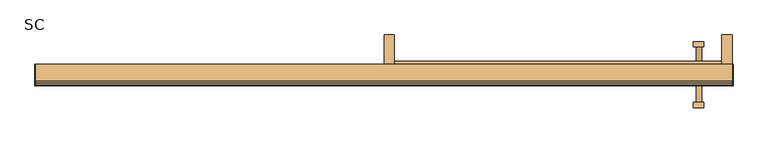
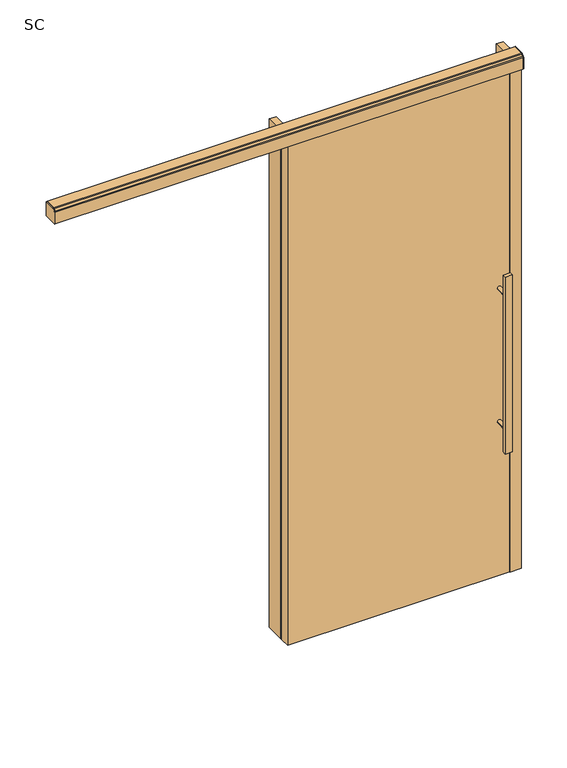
"""IFC4 building model written with IfcOpenShell, lengths in millimetres: door geometry, Mobiliário_Mobiliário de Escritório_Porta Simples de Correr - SC_Marelli : SC."""

import ifcopenshell
import ifcopenshell.guid

model = None  # the IFC model being written
_history = None  # IfcOwnerHistory: only IFC2X3 demands one
_inside = {}  # id of a spatial element -> (the spatial element, [elements in it])
_under = {}  # id of a project, library or spatial element -> (it, [spatial elements below it])
_declared = {}  # id of a project -> (the project, [libraries it declares])
_typed = {}  # id of a type object -> (the type object, [elements of that type])
_made_of = {}  # id of a material, layer set ... -> (it, [elements and type objects made of it])


def new_model(schema):
    """Start an empty IFC model of exactly this schema.

    Asked for "IFC4X3", IfcOpenShell would pick the latest addendum, in which some entities
    have other attributes; the version numbers below select the first issue.
    IFC2X3 requires an IfcOwnerHistory on every rooted entity: one is made here for all.
    """
    global model, _history
    if schema == "IFC4X3":
        model = ifcopenshell.file(schema_version=(4, 3, 0, 0))
    else:
        model = ifcopenshell.file(schema=schema)
    _inside.clear()
    _under.clear()
    _declared.clear()
    _typed.clear()
    _made_of.clear()
    _history = None
    if model.schema == "IFC2X3":
        org = make("IfcOrganization", Name="unknown")
        user = make(
            "IfcPersonAndOrganization",
            ThePerson=make("IfcPerson", FamilyName="unknown"),
            TheOrganization=org,
        )
        app = make(
            "IfcApplication",
            ApplicationDeveloper=org,
            Version="unknown",
            ApplicationFullName="unknown",
            ApplicationIdentifier="unknown",
        )
        _history = make(
            "IfcOwnerHistory",
            OwningUser=user,
            OwningApplication=app,
            ChangeAction="ADDED",
            CreationDate=0,
        )
    return model


def make(cls, **values):
    """One entity of the class cls with the attributes given. An attribute that is None is left unset."""
    return model.create_entity(
        cls, **{name: value for name, value in values.items() if value is not None}
    )


def rooted(cls, **values):
    """An entity with a GlobalId (a new one), such as an element, a storey or a relation."""
    return make(cls, GlobalId=ifcopenshell.guid.new(), OwnerHistory=_history, **values)


def si_unit(unit_type, name, prefix=None):
    """IfcSIUnit, for example si_unit("LENGTHUNIT", "METRE", prefix="MILLI")."""
    return make("IfcSIUnit", UnitType=unit_type, Prefix=prefix, Name=name)


def assignment(units):
    """IfcUnitAssignment: the units of a project."""
    return None if units is None else make("IfcUnitAssignment", Units=units)


def point(xyz):
    """IfcCartesianPoint."""
    return None if xyz is None else make("IfcCartesianPoint", Coordinates=xyz)


def direction(xyz):
    """IfcDirection."""
    return None if xyz is None else make("IfcDirection", DirectionRatios=xyz)


def frame(location, z_axis=None, x_axis=None):
    """IfcAxis2Placement3D, a coordinate frame: its origin and axes. An axis left out is left unset."""
    return make(
        "IfcAxis2Placement3D",
        Location=point(location),
        Axis=direction(z_axis),
        RefDirection=direction(x_axis),
    )


def frame_2d(location, x_axis=None):
    """IfcAxis2Placement2D, a coordinate frame in the plane: its origin and x axis."""
    return make(
        "IfcAxis2Placement2D", Location=point(location), RefDirection=direction(x_axis)
    )


def origin():
    """The frame at (0, 0, 0) with its axes left unset."""
    return frame((0.0, 0.0, 0.0))


def origin_with_axes():
    """The frame at (0, 0, 0) with the z axis (0, 0, 1) and the x axis (1, 0, 0) written out."""
    return frame((0.0, 0.0, 0.0), z_axis=(0.0, 0.0, 1.0), x_axis=(1.0, 0.0, 0.0))


def place(relative_to, where):
    """IfcLocalPlacement: puts the frame where relative to a parent placement (None: the world)."""
    return make(
        "IfcLocalPlacement", PlacementRelTo=relative_to, RelativePlacement=where
    )


def context(
    kind, dimensions, precision=None, world=None, true_north=None, identifier=None
):
    """IfcGeometricRepresentationContext, for example the 3D "Model" context."""
    return make(
        "IfcGeometricRepresentationContext",
        ContextIdentifier=identifier,
        ContextType=kind,
        CoordinateSpaceDimension=dimensions,
        Precision=precision,
        WorldCoordinateSystem=world,
        TrueNorth=true_north,
    )


def project(units=None, contexts=None):
    """IfcProject with its units and contexts."""
    return rooted(
        "IfcProject",
        Name="project",
        RepresentationContexts=contexts,
        UnitsInContext=assignment(units),
    )


def spatial(cls, under=None, at=None, **own):
    """A site, building, storey or space (cls), placed at a placement, below another one or the project."""
    s = rooted(cls, ObjectPlacement=at, **own)
    if under is not None:
        _under.setdefault(under.id(), (under, []))[1].append(s)
    return s


def polyline(points):
    """IfcPolyline through the points."""
    return make("IfcPolyline", Points=[point(p) for p in points])


def circle_curve(where, radius):
    """IfcCircle in the frame where."""
    return make("IfcCircle", Position=where, Radius=radius)


def trimmed(basis, trim1, trim2, sense, master):
    """IfcTrimmedCurve: the piece of a basis curve between two trims."""
    return make(
        "IfcTrimmedCurve",
        BasisCurve=basis,
        Trim1=trim1,
        Trim2=trim2,
        SenseAgreement=sense,
        MasterRepresentation=master,
    )


def segment(curve, same_sense, transition):
    """IfcCompositeCurveSegment."""
    return make(
        "IfcCompositeCurveSegment",
        Transition=transition,
        SameSense=same_sense,
        ParentCurve=curve,
    )


def composite_curve(segments, self_intersect=None):
    """IfcCompositeCurve: segments joined end to end."""
    return make("IfcCompositeCurve", Segments=segments, SelfIntersect=self_intersect)


def outline(outer, holes=None, kind="AREA"):
    """IfcArbitraryClosedProfileDef: a profile drawn as a closed curve; with holes, ...WithVoids."""
    if holes is None:
        return make("IfcArbitraryClosedProfileDef", ProfileType=kind, OuterCurve=outer)
    return make(
        "IfcArbitraryProfileDefWithVoids",
        ProfileType=kind,
        OuterCurve=outer,
        InnerCurves=holes,
    )


def extrude(swept, where, along, depth):
    """IfcExtrudedAreaSolid: the profile swept, set in the frame where, extruded along a direction by depth."""
    return make(
        "IfcExtrudedAreaSolid",
        SweptArea=swept,
        Position=where,
        ExtrudedDirection=direction(along),
        Depth=depth,
    )


def shape(context_of_items, identifier, shape_type, items):
    """IfcShapeRepresentation: the items that make up one representation, for example the "Body"."""
    return make(
        "IfcShapeRepresentation",
        ContextOfItems=context_of_items,
        RepresentationIdentifier=identifier,
        RepresentationType=shape_type,
        Items=items,
    )


def source(mapping_origin, context_of_items, identifier, shape_type, items):
    """IfcRepresentationMap: a shape defined once, which mapped items show again and again."""
    return make(
        "IfcRepresentationMap",
        MappingOrigin=mapping_origin,
        MappedRepresentation=shape(context_of_items, identifier, shape_type, items),
    )


def transform(
    local_origin,
    x_axis=None,
    y_axis=None,
    z_axis=None,
    scale=None,
    scale2=None,
    scale3=None,
    uniform=True,
):
    """IfcCartesianTransformationOperator3D, or its non-uniform kind. x_axis, y_axis, z_axis: its Axis1, 2, 3."""
    if uniform:
        return make(
            "IfcCartesianTransformationOperator3D",
            Axis1=direction(x_axis),
            Axis2=direction(y_axis),
            LocalOrigin=point(local_origin),
            Scale=scale,
            Axis3=direction(z_axis),
        )
    return make(
        "IfcCartesianTransformationOperator3DnonUniform",
        Axis1=direction(x_axis),
        Axis2=direction(y_axis),
        LocalOrigin=point(local_origin),
        Scale=scale,
        Axis3=direction(z_axis),
        Scale2=scale2,
        Scale3=scale3,
    )


def mapped(mapping_source, mapping_target):
    """IfcMappedItem: shows the shape of a source again, moved by a transform."""
    return make(
        "IfcMappedItem", MappingSource=mapping_source, MappingTarget=mapping_target
    )


def made_of(thing, what):
    """Note that an element or type object is made of a material, layer set ...; save() writes the relation."""
    if what is not None:
        _made_of.setdefault(what.id(), (what, []))[1].append(thing)
    return thing


def element(
    cls,
    number,
    at=None,
    inside=None,
    cuts=None,
    type_object=None,
    material=None,
    context=None,
    identifier="Body",
    shape_type=None,
    held_by="IfcProductDefinitionShape",
    body=None,
    shapes=None,
    **own,
):
    """One element of the class cls, such as IfcWall. Its Tag is "e" and its number.

    at: its placement. inside: the storey or other place that contains it. cuts: it is an
    opening in that element (IfcRelVoidsElement). A single representation is given by context,
    identifier, shape_type and body (its items); several are given by shapes. held_by: the class
    of the entity that holds the representations. save() writes the other relations.
    """
    e = rooted(cls, Tag="e%d" % number, ObjectPlacement=at, **own)
    if body is not None:
        shapes = [shape(context, identifier, shape_type, body)]
    if shapes is not None:
        e.Representation = make(held_by, Representations=shapes)
    if inside is not None:
        _inside.setdefault(inside.id(), (inside, []))[1].append(e)
    if cuts is not None:
        rooted(
            "IfcRelVoidsElement", RelatingBuildingElement=cuts, RelatedOpeningElement=e
        )
    if type_object is not None:
        _typed.setdefault(type_object.id(), (type_object, []))[1].append(e)
    return made_of(e, material)


def aggregate(whole, parts):
    """IfcRelAggregates: a whole, such as a stair, and the parts it consists of."""
    return rooted("IfcRelAggregates", RelatingObject=whole, RelatedObjects=parts)


def save(model, path):
    """Write the relations noted so far, then the file.

    IfcRelAggregates (storeys below a building ...), IfcRelContainedInSpatialStructure (elements
    in a storey), IfcRelDefinesByType, IfcRelAssociatesMaterial and IfcRelDeclares: one each for
    every whole, place, type object, material and project.
    """
    for whole, parts in _under.values():
        aggregate(whole, parts)
    for where, things in _inside.values():
        rooted(
            "IfcRelContainedInSpatialStructure",
            RelatedElements=things,
            RelatingStructure=where,
        )
    for kind, things in _typed.values():
        rooted("IfcRelDefinesByType", RelatedObjects=things, RelatingType=kind)
    for what, things in _made_of.values():
        rooted("IfcRelAssociatesMaterial", RelatedObjects=things, RelatingMaterial=what)
    for by, libraries in _declared.values():
        rooted("IfcRelDeclares", RelatingContext=by, RelatedDefinitions=libraries)
    model.write(path)


def sc_cab2c7cc(model_context):
    return source(origin(), model_context, "Body", "SweptSolid", [
        extrude(outline(polyline([(450.0, -108.0), (450.0, -150.0), (-500.0, -150.0), (-500.0, -108.0), (450.0, -108.0)])), frame((0.0, 0.0, 2.0), z_axis=(0.0, 0.0, 1.0), x_axis=(1.0, 0.0, 0.0)), (0.0, 0.0, 1.0), 2278.0),
        extrude(outline(polyline([(-500.0, -15.0), (-470.0, -15.0), (-470.0, -100.0), (-500.0, -100.0), (-500.0, -15.0)])), origin_with_axes(), (0.0, 0.0, 1.0), 2300.0),
        extrude(outline(polyline([(500.0, -15.0), (500.0, -100.0), (470.0, -100.0), (470.0, -15.0), (500.0, -15.0)])), origin_with_axes(), (0.0, 0.0, 1.0), 2300.0),
        extrude(outline(polyline([(500.0, -100.0), (500.0, -150.0), (450.0, -150.0), (450.0, -100.0), (500.0, -100.0)])), origin_with_axes(), (0.0, 0.0, 1.0), 2280.0),
        extrude(outline(polyline([(388.9, -223.7), (388.9, -208.7), (418.9, -208.7), (418.9, -223.7), (388.9, -223.7)])), frame((0.0, 0.0, 600.0), z_axis=(0.0, 0.0, 1.0), x_axis=(1.0, 0.0, 0.0)), (0.0, 0.0, 1.0), 800.0),
        extrude(outline(composite_curve([segment(trimmed(circle_curve(frame_2d((698.0, 405.0278633)), 8.0), [point((698.0, 397.0278633))], [point((698.0, 413.0278633))], False, "CARTESIAN"), True, "CONTINUOUS"), segment(trimmed(circle_curve(frame_2d((698.0, 405.0278633)), 8.0), [point((698.0, 413.0278633))], [point((698.0, 397.0278633))], False, "CARTESIAN"), True, "CONTINUOUS")], self_intersect=False)), frame((0.0, -208.7, 0.0), z_axis=(0.0, 1.0, 0.0), x_axis=(0.0, 0.0, 1.0)), (0.0, 0.0, 1.0), 58.7),
        extrude(outline(composite_curve([segment(trimmed(circle_curve(frame_2d((1302.0, 405.0278633)), 8.0), [point((1302.0, 397.0278633))], [point((1302.0, 413.0278633))], False, "CARTESIAN"), True, "CONTINUOUS"), segment(trimmed(circle_curve(frame_2d((1302.0, 405.0278633)), 8.0), [point((1302.0, 413.0278633))], [point((1302.0, 397.0278633))], False, "CARTESIAN"), True, "CONTINUOUS")], self_intersect=False)), frame((0.0, -208.7, 0.0), z_axis=(0.0, 1.0, 0.0), x_axis=(0.0, 0.0, 1.0)), (0.0, 0.0, 1.0), 58.7),
        extrude(outline(polyline([(388.9, -34.3), (418.9, -34.3), (418.9, -49.3), (388.9, -49.3), (388.9, -34.3)])), frame((0.0, 0.0, 600.0), z_axis=(0.0, 0.0, 1.0), x_axis=(1.0, 0.0, 0.0)), (0.0, 0.0, 1.0), 800.0),
        extrude(outline(composite_curve([segment(trimmed(circle_curve(frame_2d((698.0, 405.0278633)), 8.0), [point((698.0, 397.0278633))], [point((698.0, 413.0278633))], False, "CARTESIAN"), True, "CONTINUOUS"), segment(trimmed(circle_curve(frame_2d((698.0, 405.0278633)), 8.0), [point((698.0, 413.0278633))], [point((698.0, 397.0278633))], False, "CARTESIAN"), True, "CONTINUOUS")], self_intersect=False)), frame((0.0, -108.0, 0.0), z_axis=(0.0, 1.0, 0.0), x_axis=(0.0, 0.0, 1.0)), (0.0, 0.0, 1.0), 58.7),
        extrude(outline(composite_curve([segment(trimmed(circle_curve(frame_2d((1302.0, 405.0278633)), 8.0), [point((1302.0, 397.0278633))], [point((1302.0, 413.0278633))], False, "CARTESIAN"), True, "CONTINUOUS"), segment(trimmed(circle_curve(frame_2d((1302.0, 405.0278633)), 8.0), [point((1302.0, 413.0278633))], [point((1302.0, 397.0278633))], False, "CARTESIAN"), True, "CONTINUOUS")], self_intersect=False)), frame((0.0, -108.0, 0.0), z_axis=(0.0, 1.0, 0.0), x_axis=(0.0, 0.0, 1.0)), (0.0, 0.0, 1.0), 58.7),
        extrude(outline(polyline([(470.0, -90.0), (470.0, -100.0), (-470.0, -100.0), (-470.0, -90.0), (470.0, -90.0)])), frame((0.0, 0.0, 2270.0), z_axis=(0.0, 0.0, 1.0), x_axis=(1.0, 0.0, 0.0)), (0.0, 0.0, 1.0), 30.0),
        extrude(outline(composite_curve([segment(polyline([(-100.0, 2280.0), (-103.7, 2280.0), (-103.7, 2288.4), (-118.3, 2288.4), (-118.3, 2316.9), (-142.2, 2316.9), (-142.2, 2288.4), (-156.1, 2288.4), (-156.1, 2264.2), (-161.3, 2264.2), (-161.3, 2316.3833057)]), True, "CONTINUOUS"), segment(trimmed(circle_curve(frame_2d((-154.7488615, 2316.4864296)), 6.5519502), [point((-161.3, 2316.3833057))], [point((-159.3082964, 2321.1917036))], False, "CARTESIAN"), True, "CONTINUOUS"), segment(polyline([(-159.3082964, 2321.1917036), (-153.2917036, 2327.2082964)]), True, "CONTINUOUS"), segment(trimmed(circle_curve(frame_2d((-148.5864296, 2322.6488615)), 6.5519502), [point((-153.2917036, 2327.2082964))], [point((-148.4833057, 2329.2))], False, "CARTESIAN"), True, "CONTINUOUS"), segment(polyline([(-148.4833057, 2329.2), (-100.0, 2329.2), (-100.0, 2280.0)]), True, "CONTINUOUS")], self_intersect=False)), frame((-1500.0, 0.0, 0.0), z_axis=(1.0, 0.0, 0.0), x_axis=(0.0, 1.0, 0.0)), (0.0, 0.0, 1.0), 2000.0),
        extrude(outline(composite_curve([segment(polyline([(-100.0, 2264.2), (-161.3, 2264.2), (-161.3, 2316.3833057)]), True, "CONTINUOUS"), segment(trimmed(circle_curve(frame_2d((-154.7488615, 2316.4864296)), 6.5519502), [point((-161.3, 2316.3833057))], [point((-159.3082964, 2321.1917036))], False, "CARTESIAN"), True, "CONTINUOUS"), segment(polyline([(-159.3082964, 2321.1917036), (-153.2917036, 2327.2082964)]), True, "CONTINUOUS"), segment(trimmed(circle_curve(frame_2d((-148.5864296, 2322.6488615)), 6.5519502), [point((-153.2917036, 2327.2082964))], [point((-148.4833057, 2329.2))], False, "CARTESIAN"), True, "CONTINUOUS"), segment(polyline([(-148.4833057, 2329.2), (-100.0, 2329.2), (-100.0, 2264.2)]), True, "CONTINUOUS")], self_intersect=False)), frame((500.0, 0.0, 0.0), z_axis=(1.0, 0.0, 0.0), x_axis=(0.0, 1.0, 0.0)), (0.0, 0.0, 1.0), 3.0),
        extrude(outline(composite_curve([segment(polyline([(-100.0, 2264.2), (-161.3, 2264.2), (-161.3, 2316.3833057)]), True, "CONTINUOUS"), segment(trimmed(circle_curve(frame_2d((-154.7488615, 2316.4864296)), 6.5519502), [point((-161.3, 2316.3833057))], [point((-159.3082964, 2321.1917036))], False, "CARTESIAN"), True, "CONTINUOUS"), segment(polyline([(-159.3082964, 2321.1917036), (-153.2917036, 2327.2082964)]), True, "CONTINUOUS"), segment(trimmed(circle_curve(frame_2d((-148.5864296, 2322.6488615)), 6.5519502), [point((-153.2917036, 2327.2082964))], [point((-148.4833057, 2329.2))], False, "CARTESIAN"), True, "CONTINUOUS"), segment(polyline([(-148.4833057, 2329.2), (-100.0, 2329.2), (-100.0, 2264.2)]), True, "CONTINUOUS")], self_intersect=False)), frame((-1503.0, 0.0, 0.0), z_axis=(1.0, 0.0, 0.0), x_axis=(0.0, 1.0, 0.0)), (0.0, 0.0, 1.0), 3.0),
    ])


if __name__ == "__main__":
    model = new_model("IFC4")
    model_context = context("Model", 3, world=origin())
    ifc_project = project(units=[si_unit("LENGTHUNIT", "METRE", prefix="MILLI")], contexts=[model_context])
    site = spatial("IfcSite", under=ifc_project)
    building = spatial("IfcBuilding", under=site)
    placement = place(None, origin())
    sc_shape = sc_cab2c7cc(model_context)
    element("IfcDoor", 1, ObjectType="Mobiliário_Mobiliário de Escritório_Porta Simples de Correr - SC_Marelli : SC", at=placement, inside=building, context=model_context, shape_type="MappedRepresentation", body=[
        mapped(sc_shape, transform((0.0, 0.0, 0.0), x_axis=(1.0, 0.0, 0.0), y_axis=(0.0, 1.0, 0.0), z_axis=(0.0, 0.0, 1.0))),
    ])
    save(model, "model.ifc")
